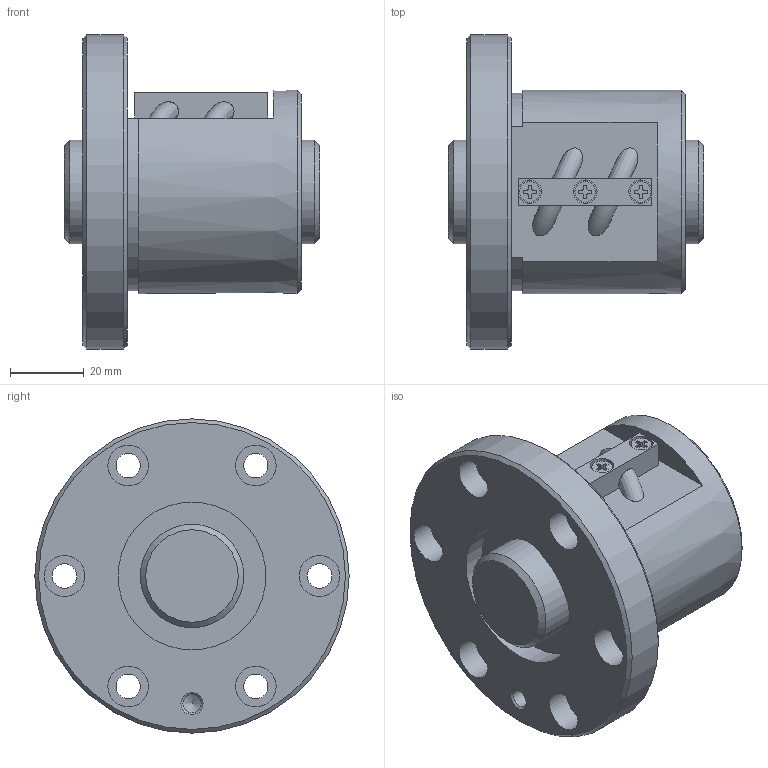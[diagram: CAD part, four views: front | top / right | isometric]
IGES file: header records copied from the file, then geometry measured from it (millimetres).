
Start section: Data from Parasolid IGES Translator 26.0.171, Copyright(c) 2006 Siemens PLM Software. All Rights Reserved.
Global section: file name: SBN2805V-5G0+69LC0(0000).igs; native system: By Siemens PLM Incorporated; preprocessor: XPlus GENERIC/IGES 26.0.171; author: Noname; organization: Noname; date: 20240528.102438; units: millimetre
Bounding box: 69 x 85 x 85 mm (x, y, z)
Surface area: 36994 mm2 (no closed solid volume)
Topology: 0 solids, 0 shells, 124 faces, 595 edges, 546 vertices
Faces by surface type: extrusion 69, revolution 55
